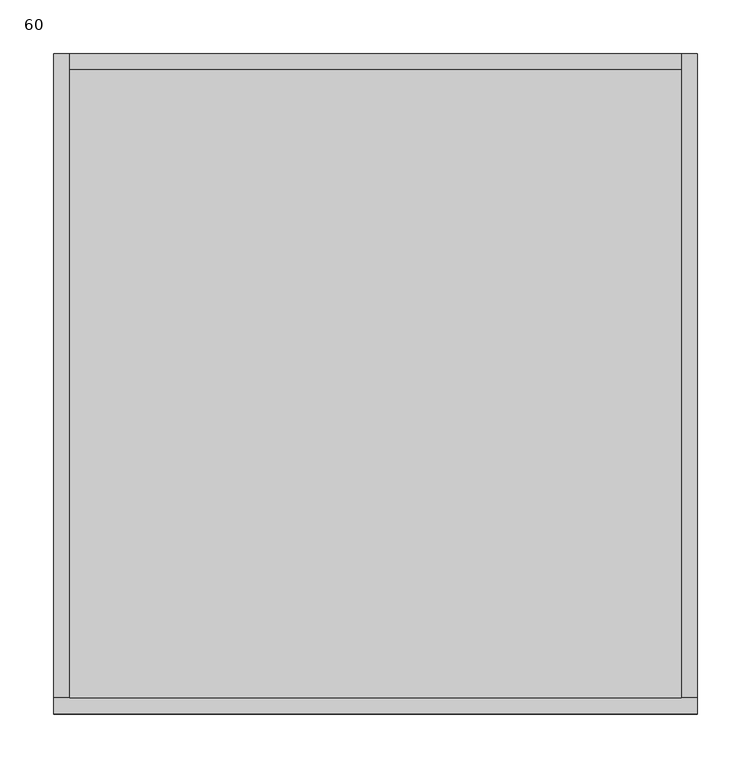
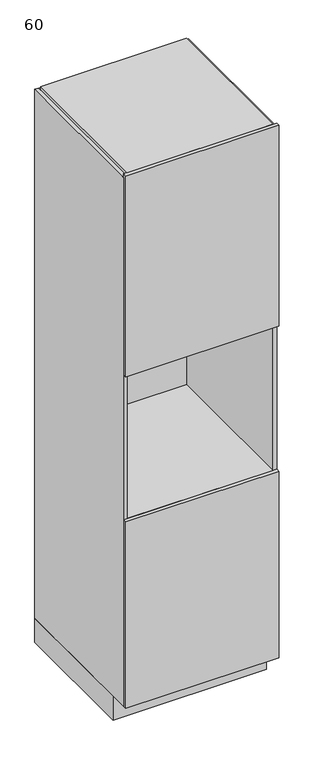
"""IFC4 building model written with IfcOpenShell, lengths in millimetres: furniture geometry, MUEBLE ALTA PARA HORNO : 60."""

from ifc_helpers import new_model, si_unit, frame, origin, origin_with_axes, place, context, project, spatial, polyline, outline, extrude, source, transform, mapped, element, save


def furniture_60_4b7d7167(model_context):
    return source(origin(), model_context, "Body", "SweptSolid", [
        extrude(outline(polyline([(329.7003264, 0.0), (329.7003264, -15.0), (-240.2996736, -15.0), (-240.2996736, 0.0), (329.7003264, 0.0)])), frame((0.0, 0.0, 100.0), z_axis=(0.0, 0.0, 1.0), x_axis=(1.0, 0.0, 0.0)), (0.0, 0.0, 1.0), 2185.0),
        extrude(outline(polyline([(-240.2996736, 0.0), (-240.2996736, -600.0), (-255.2996736, -600.0), (-255.2996736, 0.0), (-240.2996736, 0.0)])), frame((0.0, 0.0, 100.0), z_axis=(0.0, 0.0, 1.0), x_axis=(1.0, 0.0, 0.0)), (0.0, 0.0, 1.0), 2185.0),
        extrude(outline(polyline([(329.7003264, 0.0), (344.7003264, 0.0), (344.7003264, -600.0), (329.7003264, -600.0), (329.7003264, 0.0)])), frame((0.0, 0.0, 100.0), z_axis=(0.0, 0.0, 1.0), x_axis=(1.0, 0.0, 0.0)), (0.0, 0.0, 1.0), 2185.0),
        extrude(outline(polyline([(-240.2996736, -15.0), (329.7003264, -15.0), (329.7003264, -600.0), (-240.2996736, -600.0), (-240.2996736, -15.0)])), frame((0.0, 0.0, 2285.0), z_axis=(0.0, 0.0, 1.0), x_axis=(1.0, 0.0, 0.0)), (0.0, 0.0, 1.0), 15.0),
        extrude(outline(polyline([(-240.2996736, -15.0), (329.7003264, -15.0), (329.7003264, -600.0), (-240.2996736, -600.0), (-240.2996736, -15.0)])), frame((0.0, 0.0, 855.0), z_axis=(0.0, 0.0, 1.0), x_axis=(1.0, 0.0, 0.0)), (0.0, 0.0, 1.0), 15.0),
        extrude(outline(polyline([(344.7003264, -615.0), (-255.2996736, -615.0), (-255.2996736, -600.0), (344.7003264, -600.0), (344.7003264, -615.0)])), frame((0.0, 0.0, 1470.0), z_axis=(0.0, 0.0, 1.0), x_axis=(1.0, 0.0, 0.0)), (0.0, 0.0, 1.0), 830.0),
        extrude(outline(polyline([(329.7003264, -600.0), (-240.2996736, -600.0), (-240.2996736, -585.0), (329.7003264, -585.0), (329.7003264, -600.0)])), frame((0.0, 0.0, 2140.0), z_axis=(0.0, 0.0, 1.0), x_axis=(1.0, 0.0, 0.0)), (0.0, 0.0, 1.0), 145.0),
        extrude(outline(polyline([(-240.2996736, -15.0), (329.7003264, -15.0), (329.7003264, -600.0), (-240.2996736, -600.0), (-240.2996736, -15.0)])), frame((0.0, 0.0, 1470.0), z_axis=(0.0, 0.0, 1.0), x_axis=(1.0, 0.0, 0.0)), (0.0, 0.0, 1.0), 15.0),
        extrude(outline(polyline([(344.7003264, -615.0), (-255.2996736, -615.0), (-255.2996736, -600.0), (344.7003264, -600.0), (344.7003264, -615.0)])), frame((0.0, 0.0, 100.0), z_axis=(0.0, 0.0, 1.0), x_axis=(1.0, 0.0, 0.0)), (0.0, 0.0, 1.0), 770.0),
        extrude(outline(polyline([(329.7003264, -600.0), (-240.2996736, -600.0), (-240.2996736, -585.0), (329.7003264, -585.0), (329.7003264, -600.0)])), frame((0.0, 0.0, 770.0), z_axis=(0.0, 0.0, 1.0), x_axis=(1.0, 0.0, 0.0)), (0.0, 0.0, 1.0), 100.0),
        extrude(outline(polyline([(-240.2996736, -15.0), (329.7003264, -15.0), (329.7003264, -600.0), (-240.2996736, -600.0), (-240.2996736, -15.0)])), frame((0.0, 0.0, 100.0), z_axis=(0.0, 0.0, 1.0), x_axis=(1.0, 0.0, 0.0)), (0.0, 0.0, 1.0), 15.0),
        extrude(outline(polyline([(344.7003264, 0.0), (344.7003264, -530.0), (-255.2996736, -530.0), (-255.2996736, 0.0), (344.7003264, 0.0)])), origin_with_axes(), (0.0, 0.0, 1.0), 100.0),
    ])


if __name__ == "__main__":
    model = new_model("IFC4")
    model_context = context("Model", 3, world=origin())
    ifc_project = project(units=[si_unit("LENGTHUNIT", "METRE", prefix="MILLI")], contexts=[model_context])
    site = spatial("IfcSite", under=ifc_project)
    building = spatial("IfcBuilding", under=site)
    placement = place(None, origin())
    furniture_60_shape = furniture_60_4b7d7167(model_context)
    element("IfcFurniture", 1, ObjectType="MUEBLE ALTA PARA HORNO : 60", at=placement, inside=building, context=model_context, shape_type="MappedRepresentation", body=[
        mapped(furniture_60_shape, transform((0.0, 0.0, 0.0), x_axis=(1.0, 0.0, 0.0), y_axis=(0.0, 1.0, 0.0), z_axis=(0.0, 0.0, 1.0))),
    ])
    save(model, "model.ifc")
